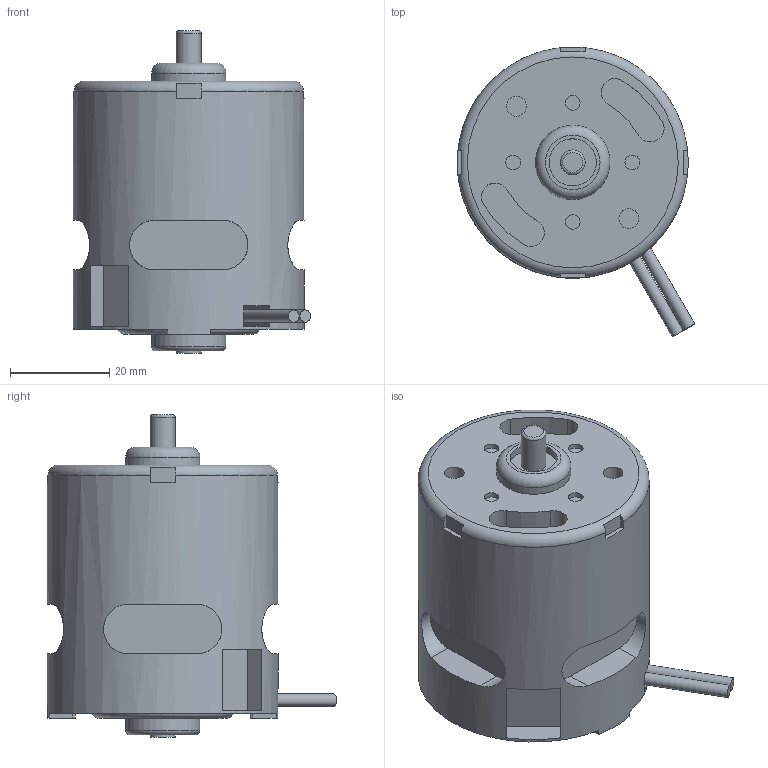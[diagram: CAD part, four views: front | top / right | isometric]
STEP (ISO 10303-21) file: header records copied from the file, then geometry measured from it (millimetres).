
FILE_DESCRIPTION(/* description */ (''),/* implementation_level */ '2;1');
FILE_NAME(/* name */ 'C:\Users\User\Google Drive\3D\johnson-dc-motor-hp-step-file.stp',/* time_stamp */ '2026-09-26T15:37:22+03:00',/* author */ ('User'),/* organization */ (''),/* preprocessor_version */ 'ST-DEVELOPER v16.5',/* originating_system */ 'Autodesk Inventor 2017',/* authorisation */ '');
FILE_SCHEMA (('AUTOMOTIVE_DESIGN { 1 0 10303 214 3 1 1 }'));
Length unit declared in the file: millimetre
Products named in the file (1): rs775sf-MABUCHI-DC-MOTOR2
Bounding box: 47.8 x 58.31 x 65.04 mm (x, y, z)
Volume: 80566.8 mm3; surface area: 13797.2 mm2
Topology: 1 solids, 1 shells, 125 faces, 310 edges, 205 vertices
Faces by surface type: plane 73, cylinder 47, torus 5
Full cylindrical faces by diameter (mm): 2.5 x2, 2.95 x4, 4 x2, 5 x2, 7.35 x1, 9.5 x1, 15 x2, 46.5 x1
Entity records: 3869 total; most frequent: CARTESIAN_POINT 791, DIRECTION 652, ORIENTED_EDGE 564, EDGE_CURVE 282, AXIS2_PLACEMENT_3D 257, VERTEX_POINT 198, EDGE_LOOP 168, LINE 138
